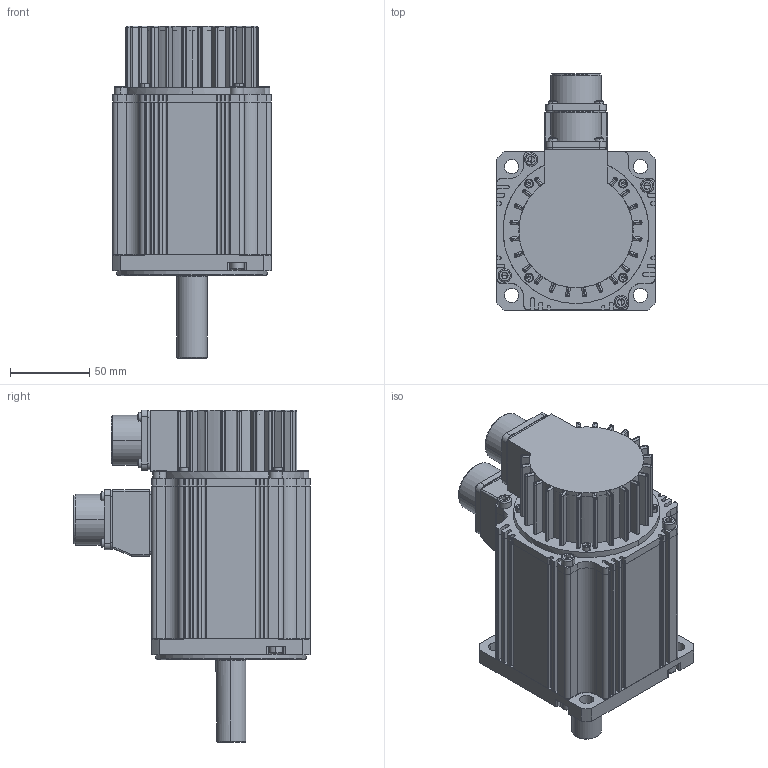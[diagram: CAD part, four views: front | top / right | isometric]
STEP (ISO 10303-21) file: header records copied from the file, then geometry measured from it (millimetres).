
FILE_DESCRIPTION((''),'2;1');
FILE_NAME('L-15E4K4A0_ASM','2018-11-26T',('lisy41'),(''),'CREO PARAMETRIC BY PTC INC, 2015480','CREO PARAMETRIC BY PTC INC, 2015480','');
FILE_SCHEMA(('CONFIG_CONTROL_DESIGN'));
Length unit declared in the file: millimetre
Products named in the file (33): 80D5004601_AF0; 80S6000401; 80G6000101; HANGCHAMIFENGJIAODIAN; 80G3000201; MJ01-8065_AF0; MJ01-8065_AF1; MJ01-8065_AF2; MJ01-8065_AF3; 80C4002901_AF0_ASM; 80D2004601_AF0; 80Q0005901_AF0; 80L5003601_AF0_ASM; 80D2004501_AF0; MJ01-8059_AF0; MJ01-8059_AF1; MJ01-8059_AF2; MJ01-8059_AF3; MJ01-8059_AF4; MJ01-8059_AF5; MJ01-8059_AF6; MJ01-8059_AF7; 80E3005501_AF0_ASM; 80D20009011_AF0; 80G3000501; MJ01-8041; 80T5004101_AF0_ASM; MJ01-8033_AF0; MJ01-8033_AF1; MJ01-8033_AF2; MJ01-8033_AF3; HANGCHA; L-15E4K4A0_ASM
Assembly tree (36 placements, depth 4):
  L-15E4K4A0_ASM
    80E3005501_AF0_ASM
      80C4002901_AF0_ASM
        80D5004601_AF0
        80S6000401
        80G6000101
        HANGCHAMIFENGJIAODIAN
        80G3000201
        MJ01-8065_AF0
        MJ01-8065_AF1
        MJ01-8065_AF2
        MJ01-8065_AF3
      80L5003601_AF0_ASM
        80D2004601_AF0
        80Q0005901_AF0
      80D2004501_AF0
      MJ01-8059_AF0
      MJ01-8059_AF1
      MJ01-8059_AF2
      MJ01-8059_AF3
      MJ01-8059_AF4
      MJ01-8059_AF5
      MJ01-8059_AF6
      MJ01-8059_AF7
    80T5004101_AF0_ASM
      80D20009011_AF0
      HANGCHAMIFENGJIAODIAN
      80G3000501
      MJ01-8041  x4
    MJ01-8033_AF0
    MJ01-8033_AF1
    MJ01-8033_AF2
    MJ01-8033_AF3
    HANGCHA
Bounding box: 100 x 149.1 x 209.55 mm (x, y, z)
Volume: 372194.5 mm3; surface area: 236265.6 mm2
Topology: 32 solids, 63 shells, 2578 faces, 6223 edges, 3757 vertices
Faces by surface type: cylinder 1114, plane 815, cone 477, sphere 126, torus 44, bspline 2
Entity records: 62054 total; most frequent: DIRECTION 11489, CARTESIAN_POINT 11265, ORIENTED_EDGE 9800, EDGE_CURVE 4969, AXIS2_PLACEMENT_3D 4462, VERTEX_POINT 3151, VECTOR 2565, LINE 2565
